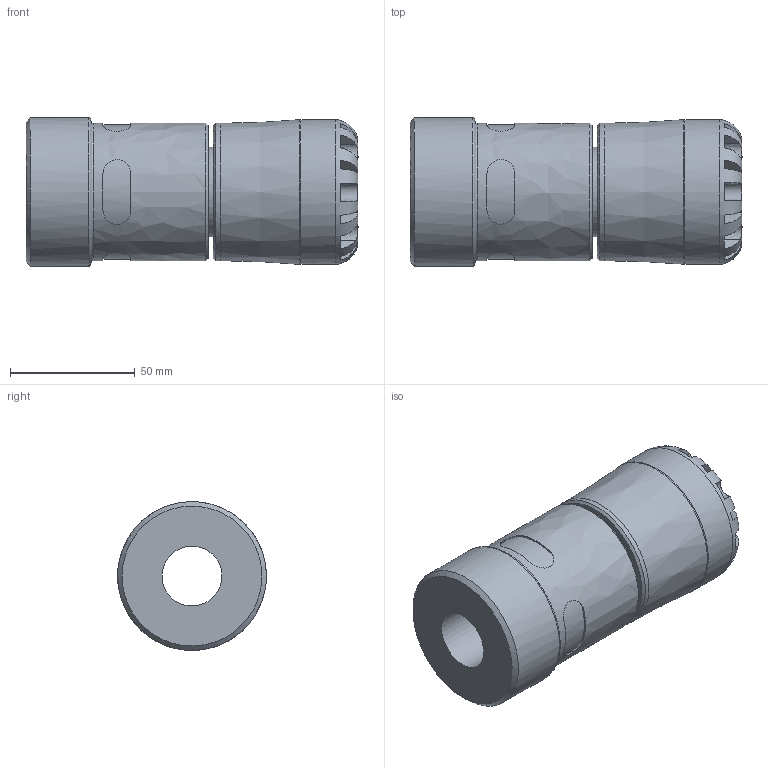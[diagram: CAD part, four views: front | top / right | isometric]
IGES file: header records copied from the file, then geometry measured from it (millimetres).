
Global section: file name: 10N200032020_10N2G0032020; native system: Autodesk Inventor 2019; preprocessor: unknown; author: KIM; date: 20240312.131936; units: millimetre
Bounding box: 133 x 59.61 x 59.58 mm (x, y, z)
Volume: 246806.6 mm3; surface area: 43041.1 mm2
Topology: 1 solids, 1 shells, 106 faces, 279 edges, 182 vertices
Faces by surface type: bspline 106
